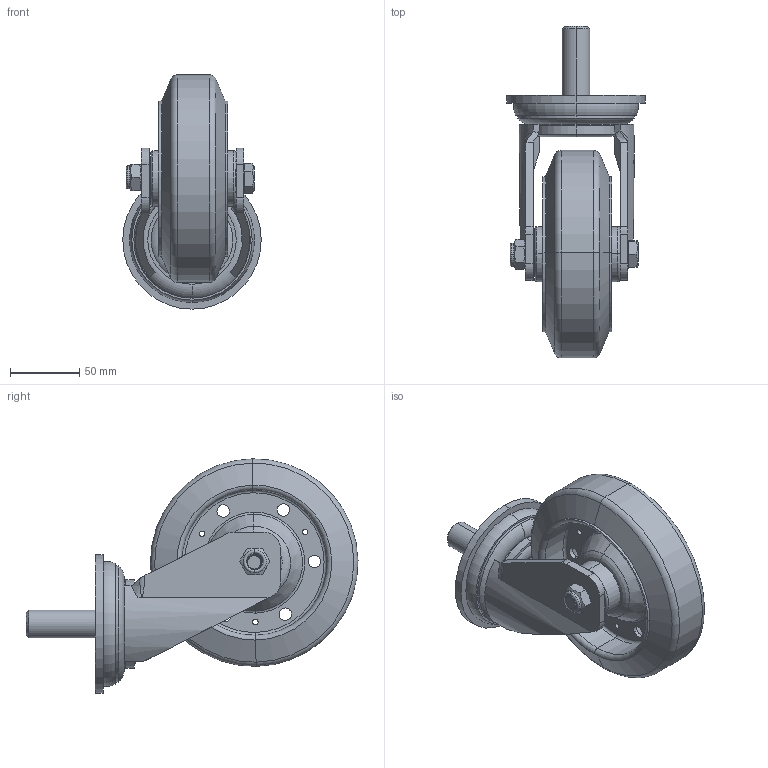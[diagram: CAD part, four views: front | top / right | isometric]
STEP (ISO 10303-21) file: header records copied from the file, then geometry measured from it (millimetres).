
FILE_DESCRIPTION (( 'STEP AP203' ), '1' );
FILE_NAME ('重型6寸万向圆底板.STEP', '2024-01-15T08:05:40', ( '微软用户' ), ( '微软中国' ), 'SwSTEP 2.0', 'SolidWorks 2008', '' );
FILE_SCHEMA (( 'CONFIG_CONTROL_DESIGN' ));
Length unit declared in the file: millimetre
Products named in the file (6): 重型万向圆型底板_默认; 重型6寸万向圆底板; M12螺母_默认; 12｡ﾁ85ﾂﾝｸﾋ_ﾄｬﾈﾏ; M7  6寸万向臂(55)_默认; 6寸橡胶轮_默认
Assembly tree (5 placements, depth 2):
  重型6寸万向圆底板
    6寸橡胶轮_默认
    12｡ﾁ85ﾂﾝｸﾋ_ﾄｬﾈﾏ
    M7  6寸万向臂(55)_默认
    重型万向圆型底板_默认
    M12螺母_默认
Bounding box: 100 x 239.89 x 169.32 mm (x, y, z)
Volume: 736023 mm3; surface area: 139163.7 mm2
Topology: 6 solids, 6 shells, 308 faces, 742 edges, 474 vertices
Faces by surface type: plane 110, cylinder 74, bspline 54, torus 44, cone 26
Entity records: 14506 total; most frequent: CARTESIAN_POINT 6928, ORIENTED_EDGE 1480, DIRECTION 1363, EDGE_CURVE 740, AXIS2_PLACEMENT_3D 528, VERTEX_POINT 474, EDGE_LOOP 364, ADVANCED_FACE 308
